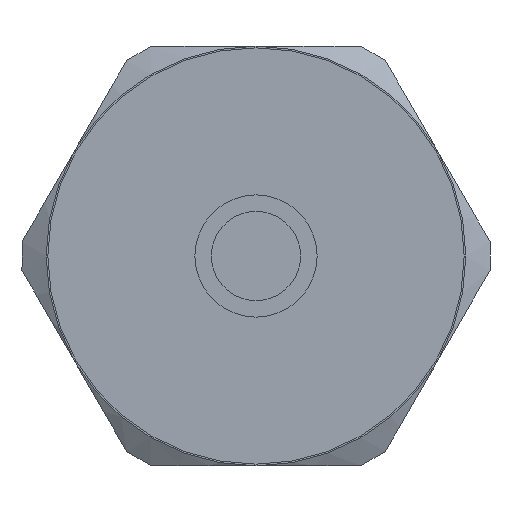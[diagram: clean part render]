
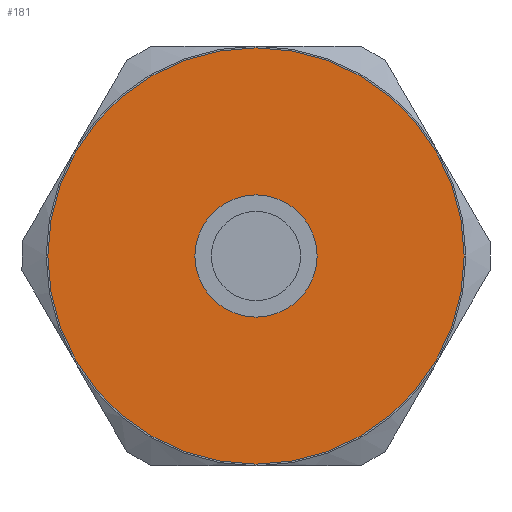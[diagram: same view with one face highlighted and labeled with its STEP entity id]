
A CAD part, front view. The second image highlights one B-rep face of the part: STEP entity #181.
In plain terms, the highlighted planar face has unit normal (0, -1, 0).
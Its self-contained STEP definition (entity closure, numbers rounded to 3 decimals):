
#29 = AXIS2_PLACEMENT_3D ( 'NONE', #3007, #1704, #76 ) ;
#76 = DIRECTION ( 'NONE',  ( 0., 0., -1. ) ) ;
#181 = ADVANCED_FACE ( 'NONE', ( #651, #1947 ), #3260, .T. ) ;
#302 = VERTEX_POINT ( 'NONE', #321 ) ;
#321 = CARTESIAN_POINT ( 'NONE',  ( 0., -8.4, 3.7 ) ) ;
#336 = CIRCLE ( 'NONE', #2387, 12.6 ) ;
#392 = DIRECTION ( 'NONE',  ( 0., -1., 0. ) ) ;
#432 = CARTESIAN_POINT ( 'NONE',  ( 0., -8.4, -3.7 ) ) ;
#469 = ORIENTED_EDGE ( 'NONE', *, *, #1893, .F. ) ;
#501 = AXIS2_PLACEMENT_3D ( 'NONE', #2661, #392, #1086 ) ;
#569 = EDGE_CURVE ( 'NONE', #2406, #1120, #336, .T. ) ;
#624 = DIRECTION ( 'NONE',  ( 0., -1., 0. ) ) ;
#629 = CARTESIAN_POINT ( 'NONE',  ( 0., -8.4, 12.6 ) ) ;
#651 = FACE_BOUND ( 'NONE', #1375, .T. ) ;
#934 = CARTESIAN_POINT ( 'NONE',  ( 0., -8.4, 0. ) ) ;
#953 = DIRECTION ( 'NONE',  ( 0., 0., -1. ) ) ;
#995 = DIRECTION ( 'NONE',  ( 0., 0., -1. ) ) ;
#1086 = DIRECTION ( 'NONE',  ( 0., 0., -1. ) ) ;
#1120 = VERTEX_POINT ( 'NONE', #629 ) ;
#1135 = ORIENTED_EDGE ( 'NONE', *, *, #2767, .T. ) ;
#1144 = ORIENTED_EDGE ( 'NONE', *, *, #569, .T. ) ;
#1167 = EDGE_LOOP ( 'NONE', ( #1135, #1144 ) ) ;
#1324 = DIRECTION ( 'NONE',  ( 0., -1., 0. ) ) ;
#1375 = EDGE_LOOP ( 'NONE', ( #469, #4139 ) ) ;
#1648 = VERTEX_POINT ( 'NONE', #432 ) ;
#1704 = DIRECTION ( 'NONE',  ( 0., -1., 0. ) ) ;
#1780 = CARTESIAN_POINT ( 'NONE',  ( 0., -8.4, -12.6 ) ) ;
#1893 = EDGE_CURVE ( 'NONE', #1648, #302, #2649, .T. ) ;
#1947 = FACE_OUTER_BOUND ( 'NONE', #1167, .T. ) ;
#2287 = EDGE_CURVE ( 'NONE', #302, #1648, #3747, .T. ) ;
#2341 = CIRCLE ( 'NONE', #501, 12.6 ) ;
#2387 = AXIS2_PLACEMENT_3D ( 'NONE', #934, #3897, #995 ) ;
#2406 = VERTEX_POINT ( 'NONE', #1780 ) ;
#2649 = CIRCLE ( 'NONE', #3056, 3.7 ) ;
#2661 = CARTESIAN_POINT ( 'NONE',  ( 0., -8.4, 0. ) ) ;
#2767 = EDGE_CURVE ( 'NONE', #1120, #2406, #2341, .T. ) ;
#2941 = CARTESIAN_POINT ( 'NONE',  ( 0., -8.4, 0. ) ) ;
#3007 = CARTESIAN_POINT ( 'NONE',  ( 0., -8.4, 0. ) ) ;
#3056 = AXIS2_PLACEMENT_3D ( 'NONE', #3943, #624, #953 ) ;
#3246 = AXIS2_PLACEMENT_3D ( 'NONE', #2941, #1324, #3635 ) ;
#3260 = PLANE ( 'NONE',  #3246 ) ;
#3635 = DIRECTION ( 'NONE',  ( 0., 0., -1. ) ) ;
#3747 = CIRCLE ( 'NONE', #29, 3.7 ) ;
#3897 = DIRECTION ( 'NONE',  ( 0., -1., 0. ) ) ;
#3943 = CARTESIAN_POINT ( 'NONE',  ( 0., -8.4, 0. ) ) ;
#4139 = ORIENTED_EDGE ( 'NONE', *, *, #2287, .F. ) ;
